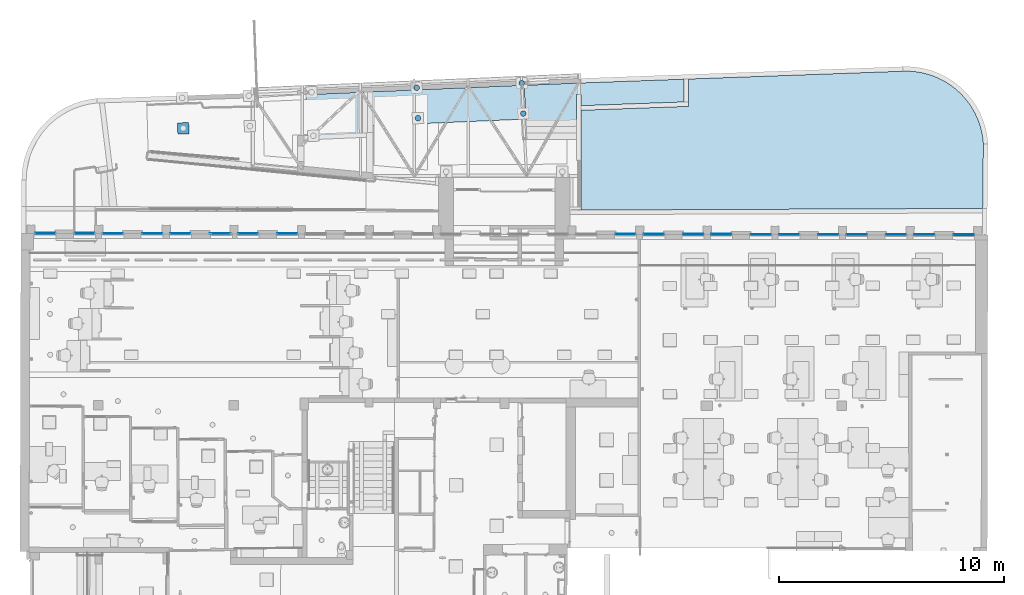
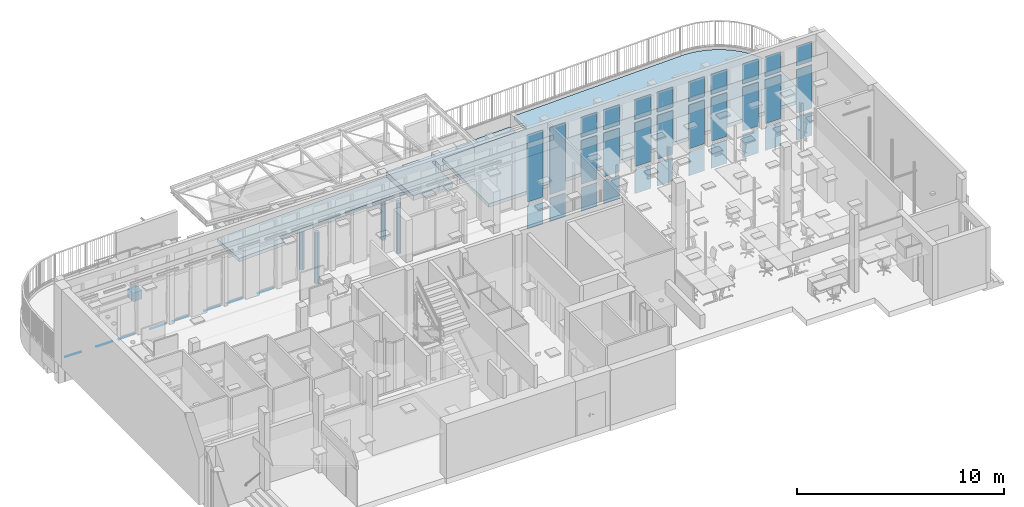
# One storey, part 24 of 128: 39 plates, 8 slabs, 30 elements without a shape of their own.
"""IFC2X3 building model written with IfcOpenShell, lengths in metres."""

from ifc_helpers import new_model, entity, si_unit, converted_unit, derived_unit, direction, frame, frame_2d, origin, origin_2d_with_axis, place, context, subcontext, project, spatial, polyline, circle_curve, parameter, trimmed, segment, composite_curve, rectangle, circle, outline, extrude, source, transform, mapped, material, layer, layer_set, layer_usage, type_object, type_shapes, element, aggregate, save


model = new_model("IFC2X3")

# Units and contexts
model_context = context("Model", 3, precision=1e-05, world=origin(), true_north=direction((6.123031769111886e-17, 1.0)))
body_context = subcontext(model_context, "Body", "Model", "MODEL_VIEW")
ifc_project = project(units=[si_unit("LENGTHUNIT", "METRE"), si_unit("AREAUNIT", "SQUARE_METRE"), converted_unit("PLANEANGLEUNIT", "DEGREE", entity("IfcPlaneAngleMeasure", 0.017453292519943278), si_unit("PLANEANGLEUNIT", "RADIAN"), dimensions=[0, 0, 0, 0, 0, 0, 0]), derived_unit("THERMALTRANSMITTANCEUNIT", [(si_unit("MASSUNIT", "GRAM", prefix="KILO"), 1), (si_unit("THERMODYNAMICTEMPERATUREUNIT", "KELVIN"), -1), (si_unit("TIMEUNIT", "SECOND"), -3)])], contexts=[model_context])

# Site, building, storey
site_placement = place(None, origin())
site = spatial("IfcSite", under=ifc_project, at=site_placement, Name="Default", CompositionType="ELEMENT")
building_placement = place(site_placement, origin())
building = spatial("IfcBuilding", under=site, at=building_placement, CompositionType="ELEMENT")
storey_placement = place(building_placement, origin())
storey = spatial("IfcBuildingStorey", under=building, at=storey_placement, Name="00_RDC CAF", CompositionType="ELEMENT", Elevation=2.4982504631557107e-13)

# Curtain wall, plate
curtain_wall_type_1 = type_object("IfcCurtainWallType", Name="Mur-rideau:FRi.Ext.30mm RDC", PredefinedType="NOTDEFINED")
curtain_wall_1_placement = place(storey_placement, origin())
curtain_wall_1 = element("IfcCurtainWall", 1, at=curtain_wall_1_placement, inside=storey, type_object=curtain_wall_type_1, Name="Mur-rideau:FRi.Ext.30mm RDC", ObjectType="Mur-rideau:FRi.Ext.30mm RDC")
ifc_material_1 = material(Name="ARC - M.Ex - Verre")
plate_type_1 = type_object("IfcPlateType", Name="Panneau système:F.Ri.P_Ext_Vitre_30mm", PredefinedType="CURTAIN_PANEL", material=ifc_material_1)
shared_shape_1 = source(origin(), body_context, "Body", "SweptSolid", [
    extrude(rectangle(XDim=0.03, YDim=0.879999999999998, at=frame_2d((0.0, 1.942890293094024e-16), x_axis=(1.0, 0.0))), frame((0.0, 0.0, 0.0), z_axis=(0.0, 0.0, 1.0), x_axis=(0.0, 1.0, 0.0)), (0.0, 0.0, 1.0), 2.578999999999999),
])
type_shapes(plate_type_1, [shared_shape_1])
plate_1_placement = place(curtain_wall_1_placement, frame((36.122358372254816, 144.13736437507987, 0.08999999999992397)))
plate_1 = element("IfcPlate", 2, at=plate_1_placement, type_object=plate_type_1, material=ifc_material_1, Name="Panneau système:F.Ri.P_Ext_Vitre_30mm", ObjectType="Panneau système:F.Ri.P_Ext_Vitre_30mm", context=body_context, shape_type="MappedRepresentation", body=[
    mapped(shared_shape_1, transform((0.0, 0.0, 0.0), scale=1.0)),
])

curtain_wall_2_placement = place(storey_placement, origin())
curtain_wall_2 = element("IfcCurtainWall", 3, at=curtain_wall_2_placement, inside=storey, type_object=curtain_wall_type_1, Name="Mur-rideau:FRi.Ext.30mm RDC", ObjectType="Mur-rideau:FRi.Ext.30mm RDC")
plate_2_placement = place(curtain_wall_2_placement, frame((37.37597977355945, 144.13539281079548, 0.08999999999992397)))
plate_2 = element("IfcPlate", 4, at=plate_2_placement, type_object=plate_type_1, material=ifc_material_1, Name="Panneau système:F.Ri.P_Ext_Vitre_30mm", ObjectType="Panneau système:F.Ri.P_Ext_Vitre_30mm", context=body_context, shape_type="MappedRepresentation", body=[
    mapped(shared_shape_1, transform((0.0, 0.0, 0.0), scale=1.0)),
])

curtain_wall_3_placement = place(storey_placement, origin())
curtain_wall_3 = element("IfcCurtainWall", 5, at=curtain_wall_3_placement, inside=storey, type_object=curtain_wall_type_1, Name="Mur-rideau:FRi.Ext.30mm RDC", ObjectType="Mur-rideau:FRi.Ext.30mm RDC")
plate_3_placement = place(curtain_wall_3_placement, frame((39.12235173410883, 144.13264630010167, 0.08999999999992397)))
plate_3 = element("IfcPlate", 6, at=plate_3_placement, type_object=plate_type_1, material=ifc_material_1, Name="Panneau système:F.Ri.P_Ext_Vitre_30mm", ObjectType="Panneau système:F.Ri.P_Ext_Vitre_30mm", context=body_context, shape_type="MappedRepresentation", body=[
    mapped(shared_shape_1, transform((0.0, 0.0, 0.0), scale=1.0)),
])

curtain_wall_4_placement = place(storey_placement, origin())
curtain_wall_4 = element("IfcCurtainWall", 7, at=curtain_wall_4_placement, inside=storey, type_object=curtain_wall_type_1, Name="Mur-rideau:FRi.Ext.30mm RDC", ObjectType="Mur-rideau:FRi.Ext.30mm RDC")
plate_4_placement = place(curtain_wall_4_placement, frame((40.37597313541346, 144.1306747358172, 0.08999999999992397)))
plate_4 = element("IfcPlate", 8, at=plate_4_placement, type_object=plate_type_1, material=ifc_material_1, Name="Panneau système:F.Ri.P_Ext_Vitre_30mm", ObjectType="Panneau système:F.Ri.P_Ext_Vitre_30mm", context=body_context, shape_type="MappedRepresentation", body=[
    mapped(shared_shape_1, transform((0.0, 0.0, 0.0), scale=1.0)),
])

curtain_wall_5_placement = place(storey_placement, origin())
curtain_wall_5 = element("IfcCurtainWall", 9, at=curtain_wall_5_placement, inside=storey, type_object=curtain_wall_type_1, Name="Mur-rideau:FRi.Ext.30mm RDC", ObjectType="Mur-rideau:FRi.Ext.30mm RDC")
plate_5_placement = place(curtain_wall_5_placement, frame((42.12234509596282, 144.12792822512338, 0.08999999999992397)))
plate_5 = element("IfcPlate", 10, at=plate_5_placement, type_object=plate_type_1, material=ifc_material_1, Name="Panneau système:F.Ri.P_Ext_Vitre_30mm", ObjectType="Panneau système:F.Ri.P_Ext_Vitre_30mm", context=body_context, shape_type="MappedRepresentation", body=[
    mapped(shared_shape_1, transform((0.0, 0.0, 0.0), scale=1.0)),
])

curtain_wall_6_placement = place(storey_placement, origin())
curtain_wall_6 = element("IfcCurtainWall", 11, at=curtain_wall_6_placement, inside=storey, type_object=curtain_wall_type_1, Name="Mur-rideau:FRi.Ext.30mm RDC", ObjectType="Mur-rideau:FRi.Ext.30mm RDC")
plate_6_placement = place(curtain_wall_6_placement, frame((43.37596649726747, 144.125956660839, 0.08999999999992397)))
plate_6 = element("IfcPlate", 12, at=plate_6_placement, type_object=plate_type_1, material=ifc_material_1, Name="Panneau système:F.Ri.P_Ext_Vitre_30mm", ObjectType="Panneau système:F.Ri.P_Ext_Vitre_30mm", context=body_context, shape_type="MappedRepresentation", body=[
    mapped(shared_shape_1, transform((0.0, 0.0, 0.0), scale=1.0)),
])

curtain_wall_7_placement = place(storey_placement, origin())
curtain_wall_7 = element("IfcCurtainWall", 13, at=curtain_wall_7_placement, inside=storey, type_object=curtain_wall_type_1, Name="Mur-rideau:FRi.Ext.30mm RDC", ObjectType="Mur-rideau:FRi.Ext.30mm RDC")
plate_7_placement = place(curtain_wall_7_placement, frame((45.122338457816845, 144.12321015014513, 0.08999999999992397)))
plate_7 = element("IfcPlate", 14, at=plate_7_placement, type_object=plate_type_1, material=ifc_material_1, Name="Panneau système:F.Ri.P_Ext_Vitre_30mm", ObjectType="Panneau système:F.Ri.P_Ext_Vitre_30mm", context=body_context, shape_type="MappedRepresentation", body=[
    mapped(shared_shape_1, transform((0.0, 0.0, 0.0), scale=1.0)),
])

curtain_wall_8_placement = place(storey_placement, origin())
curtain_wall_8 = element("IfcCurtainWall", 15, at=curtain_wall_8_placement, inside=storey, type_object=curtain_wall_type_1, Name="Mur-rideau:FRi.Ext.30mm RDC", ObjectType="Mur-rideau:FRi.Ext.30mm RDC")
plate_8_placement = place(curtain_wall_8_placement, frame((46.3759598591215, 144.12123858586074, 0.08999999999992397)))
plate_8 = element("IfcPlate", 16, at=plate_8_placement, type_object=plate_type_1, material=ifc_material_1, Name="Panneau système:F.Ri.P_Ext_Vitre_30mm", ObjectType="Panneau système:F.Ri.P_Ext_Vitre_30mm", context=body_context, shape_type="MappedRepresentation", body=[
    mapped(shared_shape_1, transform((0.0, 0.0, 0.0), scale=1.0)),
])

curtain_wall_9_placement = place(storey_placement, origin())
curtain_wall_9 = element("IfcCurtainWall", 17, at=curtain_wall_9_placement, inside=storey, type_object=curtain_wall_type_1, Name="Mur-rideau:FRi.Ext.30mm RDC", ObjectType="Mur-rideau:FRi.Ext.30mm RDC")
plate_9_placement = place(curtain_wall_9_placement, frame((48.12233181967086, 144.11849207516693, 0.08999999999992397)))
plate_9 = element("IfcPlate", 18, at=plate_9_placement, type_object=plate_type_1, material=ifc_material_1, Name="Panneau système:F.Ri.P_Ext_Vitre_30mm", ObjectType="Panneau système:F.Ri.P_Ext_Vitre_30mm", context=body_context, shape_type="MappedRepresentation", body=[
    mapped(shared_shape_1, transform((0.0, 0.0, 0.0), scale=1.0)),
])

# Plate
plate_type_2 = type_object("IfcPlateType", Name="Panneau système:F.Ri.P_Ext_Vitre_30mm", PredefinedType="CURTAIN_PANEL", material=ifc_material_1)
shared_shape_2 = source(origin(), body_context, "Body", "SweptSolid", [
    extrude(rectangle(XDim=0.03, YDim=0.879999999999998, at=frame_2d((0.0, 1.942890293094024e-16), x_axis=(1.0, 0.0))), frame((0.0, 0.0, 0.0), z_axis=(0.0, 0.0, 1.0), x_axis=(0.0, 1.0, 0.0)), (0.0, 0.0, 1.0), 1.1689999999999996),
])
type_shapes(plate_type_2, [shared_shape_2])
plate_10_placement = place(curtain_wall_1_placement, frame((36.122358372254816, 144.13736437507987, 2.8689999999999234)))
plate_10 = element("IfcPlate", 19, at=plate_10_placement, type_object=plate_type_2, material=ifc_material_1, Name="Panneau système:F.Ri.P_Ext_Vitre_30mm", ObjectType="Panneau système:F.Ri.P_Ext_Vitre_30mm", context=body_context, shape_type="MappedRepresentation", body=[
    mapped(shared_shape_2, transform((0.0, 0.0, 0.0), scale=1.0)),
])

aggregate(curtain_wall_1, [plate_1, plate_10])

plate_11_placement = place(curtain_wall_2_placement, frame((37.37597977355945, 144.13539281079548, 2.8689999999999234)))
plate_11 = element("IfcPlate", 20, at=plate_11_placement, type_object=plate_type_2, material=ifc_material_1, Name="Panneau système:F.Ri.P_Ext_Vitre_30mm", ObjectType="Panneau système:F.Ri.P_Ext_Vitre_30mm", context=body_context, shape_type="MappedRepresentation", body=[
    mapped(shared_shape_2, transform((0.0, 0.0, 0.0), scale=1.0)),
])

aggregate(curtain_wall_2, [plate_2, plate_11])

plate_12_placement = place(curtain_wall_3_placement, frame((39.12235173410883, 144.13264630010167, 2.8689999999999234)))
plate_12 = element("IfcPlate", 21, at=plate_12_placement, type_object=plate_type_2, material=ifc_material_1, Name="Panneau système:F.Ri.P_Ext_Vitre_30mm", ObjectType="Panneau système:F.Ri.P_Ext_Vitre_30mm", context=body_context, shape_type="MappedRepresentation", body=[
    mapped(shared_shape_2, transform((0.0, 0.0, 0.0), scale=1.0)),
])

aggregate(curtain_wall_3, [plate_3, plate_12])

plate_13_placement = place(curtain_wall_4_placement, frame((40.37597313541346, 144.1306747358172, 2.8689999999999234)))
plate_13 = element("IfcPlate", 22, at=plate_13_placement, type_object=plate_type_2, material=ifc_material_1, Name="Panneau système:F.Ri.P_Ext_Vitre_30mm", ObjectType="Panneau système:F.Ri.P_Ext_Vitre_30mm", context=body_context, shape_type="MappedRepresentation", body=[
    mapped(shared_shape_2, transform((0.0, 0.0, 0.0), scale=1.0)),
])

aggregate(curtain_wall_4, [plate_4, plate_13])

plate_14_placement = place(curtain_wall_5_placement, frame((42.12234509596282, 144.12792822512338, 2.8689999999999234)))
plate_14 = element("IfcPlate", 23, at=plate_14_placement, type_object=plate_type_2, material=ifc_material_1, Name="Panneau système:F.Ri.P_Ext_Vitre_30mm", ObjectType="Panneau système:F.Ri.P_Ext_Vitre_30mm", context=body_context, shape_type="MappedRepresentation", body=[
    mapped(shared_shape_2, transform((0.0, 0.0, 0.0), scale=1.0)),
])

aggregate(curtain_wall_5, [plate_5, plate_14])

plate_15_placement = place(curtain_wall_6_placement, frame((43.37596649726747, 144.125956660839, 2.8689999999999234)))
plate_15 = element("IfcPlate", 24, at=plate_15_placement, type_object=plate_type_2, material=ifc_material_1, Name="Panneau système:F.Ri.P_Ext_Vitre_30mm", ObjectType="Panneau système:F.Ri.P_Ext_Vitre_30mm", context=body_context, shape_type="MappedRepresentation", body=[
    mapped(shared_shape_2, transform((0.0, 0.0, 0.0), scale=1.0)),
])

aggregate(curtain_wall_6, [plate_6, plate_15])

plate_16_placement = place(curtain_wall_7_placement, frame((45.122338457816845, 144.12321015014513, 2.8689999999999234)))
plate_16 = element("IfcPlate", 25, at=plate_16_placement, type_object=plate_type_2, material=ifc_material_1, Name="Panneau système:F.Ri.P_Ext_Vitre_30mm", ObjectType="Panneau système:F.Ri.P_Ext_Vitre_30mm", context=body_context, shape_type="MappedRepresentation", body=[
    mapped(shared_shape_2, transform((0.0, 0.0, 0.0), scale=1.0)),
])

aggregate(curtain_wall_7, [plate_7, plate_16])

plate_17_placement = place(curtain_wall_8_placement, frame((46.3759598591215, 144.12123858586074, 2.8689999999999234)))
plate_17 = element("IfcPlate", 26, at=plate_17_placement, type_object=plate_type_2, material=ifc_material_1, Name="Panneau système:F.Ri.P_Ext_Vitre_30mm", ObjectType="Panneau système:F.Ri.P_Ext_Vitre_30mm", context=body_context, shape_type="MappedRepresentation", body=[
    mapped(shared_shape_2, transform((0.0, 0.0, 0.0), scale=1.0)),
])

aggregate(curtain_wall_8, [plate_8, plate_17])

plate_18_placement = place(curtain_wall_9_placement, frame((48.12233181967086, 144.11849207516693, 2.8689999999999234)))
plate_18 = element("IfcPlate", 27, at=plate_18_placement, type_object=plate_type_2, material=ifc_material_1, Name="Panneau système:F.Ri.P_Ext_Vitre_30mm", ObjectType="Panneau système:F.Ri.P_Ext_Vitre_30mm", context=body_context, shape_type="MappedRepresentation", body=[
    mapped(shared_shape_2, transform((0.0, 0.0, 0.0), scale=1.0)),
])

aggregate(curtain_wall_9, [plate_9, plate_18])

# Curtain wall, plate
curtain_wall_10_placement = place(storey_placement, origin())
curtain_wall_10 = element("IfcCurtainWall", 28, at=curtain_wall_10_placement, inside=storey, type_object=curtain_wall_type_1, Name="Mur-rideau:FRi.Ext.30mm RDC", ObjectType="Mur-rideau:FRi.Ext.30mm RDC")
plate_type_3 = type_object("IfcPlateType", Name="Panneau système:F.Ri.P_Ext_Vitre_30mm", PredefinedType="CURTAIN_PANEL", material=ifc_material_1)
shared_shape_3 = source(origin(), body_context, "Body", "SweptSolid", [
    extrude(rectangle(XDim=0.03, YDim=0.8800000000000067, at=frame_2d((0.0, -3.3306690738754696e-16), x_axis=(1.0, 0.0))), frame((0.0, 0.0, 0.0), z_axis=(0.0, 0.0, 1.0), x_axis=(0.0, 1.0, 0.0)), (0.0, 0.0, 1.0), 3.9479999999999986),
])
type_shapes(plate_type_3, [shared_shape_3])
plate_19_placement = place(curtain_wall_10_placement, frame((33.12236501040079, 144.14208245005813, 0.08999999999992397)))
plate_19 = element("IfcPlate", 29, at=plate_19_placement, type_object=plate_type_3, material=ifc_material_1, Name="Panneau système:F.Ri.P_Ext_Vitre_30mm", ObjectType="Panneau système:F.Ri.P_Ext_Vitre_30mm", context=body_context, shape_type="MappedRepresentation", body=[
    mapped(shared_shape_3, transform((0.0, 0.0, 0.0), scale=1.0)),
])
aggregate(curtain_wall_10, [plate_19])

curtain_wall_11_placement = place(storey_placement, origin())
curtain_wall_11 = element("IfcCurtainWall", 30, at=curtain_wall_11_placement, inside=storey, type_object=curtain_wall_type_1, Name="Mur-rideau:FRi.Ext.30mm RDC", ObjectType="Mur-rideau:FRi.Ext.30mm RDC")
plate_20_placement = place(curtain_wall_11_placement, frame((34.375986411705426, 144.1401108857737, 0.08999999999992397)))
plate_20 = element("IfcPlate", 31, at=plate_20_placement, type_object=plate_type_3, material=ifc_material_1, Name="Panneau système:F.Ri.P_Ext_Vitre_30mm", ObjectType="Panneau système:F.Ri.P_Ext_Vitre_30mm", context=body_context, shape_type="MappedRepresentation", body=[
    mapped(shared_shape_3, transform((0.0, 0.0, 0.0), scale=1.0)),
])
aggregate(curtain_wall_11, [plate_20])

curtain_wall_type_2 = type_object("IfcCurtainWallType", Name="Mur-rideau:FRi.Ext.30mm Etages", PredefinedType="NOTDEFINED")
curtain_wall_12_placement = place(storey_placement, origin())
curtain_wall_12 = element("IfcCurtainWall", 32, at=curtain_wall_12_placement, inside=storey, type_object=curtain_wall_type_2, Name="Mur-rideau:FRi.Ext.30mm Etages", ObjectType="Mur-rideau:FRi.Ext.30mm Etages")
ifc_material_2 = material(Name="ARC - M.Ex - Bleu Foncé")
plate_type_4 = type_object("IfcPlateType", Name="Panneau système:F.Ri.P_Ext_Plein_30mm_Bleu foncé", PredefinedType="CURTAIN_PANEL", material=ifc_material_2)
shared_shape_4 = source(origin(), body_context, "Body", "SweptSolid", [
    extrude(rectangle(XDim=0.03, YDim=0.8800000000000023, at=frame_2d((0.0, 7.494005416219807e-16), x_axis=(1.0, 0.0))), frame((0.0, 0.0, 0.0), z_axis=(0.0, 0.0, 1.0), x_axis=(0.0, 1.0, 0.0)), (0.0, 0.0, 1.0), 1.3879999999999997),
])
type_shapes(plate_type_4, [shared_shape_4])
plate_21_placement = place(curtain_wall_12_placement, frame((34.37598641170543, 144.14011088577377, -1.500000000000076)))
plate_21 = element("IfcPlate", 33, at=plate_21_placement, type_object=plate_type_4, material=ifc_material_2, Name="Panneau système:F.Ri.P_Ext_Plein_30mm_Bleu foncé", ObjectType="Panneau système:F.Ri.P_Ext_Plein_30mm_Bleu foncé", context=body_context, shape_type="MappedRepresentation", body=[
    mapped(shared_shape_4, transform((0.0, 0.0, 0.0), scale=1.0)),
])
aggregate(curtain_wall_12, [plate_21])

curtain_wall_13_placement = place(storey_placement, origin())
curtain_wall_13 = element("IfcCurtainWall", 34, at=curtain_wall_13_placement, inside=storey, type_object=curtain_wall_type_2, Name="Mur-rideau:FRi.Ext.30mm Etages", ObjectType="Mur-rideau:FRi.Ext.30mm Etages")
plate_22_placement = place(curtain_wall_13_placement, frame((37.37597977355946, 144.13539281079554, -1.500000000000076)))
plate_22 = element("IfcPlate", 35, at=plate_22_placement, type_object=plate_type_4, material=ifc_material_2, Name="Panneau système:F.Ri.P_Ext_Plein_30mm_Bleu foncé", ObjectType="Panneau système:F.Ri.P_Ext_Plein_30mm_Bleu foncé", context=body_context, shape_type="MappedRepresentation", body=[
    mapped(shared_shape_4, transform((0.0, 0.0, 0.0), scale=1.0)),
])
aggregate(curtain_wall_13, [plate_22])

curtain_wall_14_placement = place(storey_placement, origin())
curtain_wall_14 = element("IfcCurtainWall", 36, at=curtain_wall_14_placement, inside=storey, type_object=curtain_wall_type_2, Name="Mur-rideau:FRi.Ext.30mm Etages", ObjectType="Mur-rideau:FRi.Ext.30mm Etages")
plate_23_placement = place(curtain_wall_14_placement, frame((40.37597313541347, 144.13067473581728, -1.500000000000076)))
plate_23 = element("IfcPlate", 37, at=plate_23_placement, type_object=plate_type_4, material=ifc_material_2, Name="Panneau système:F.Ri.P_Ext_Plein_30mm_Bleu foncé", ObjectType="Panneau système:F.Ri.P_Ext_Plein_30mm_Bleu foncé", context=body_context, shape_type="MappedRepresentation", body=[
    mapped(shared_shape_4, transform((0.0, 0.0, 0.0), scale=1.0)),
])
aggregate(curtain_wall_14, [plate_23])

curtain_wall_15_placement = place(storey_placement, origin())
curtain_wall_15 = element("IfcCurtainWall", 38, at=curtain_wall_15_placement, inside=storey, type_object=curtain_wall_type_2, Name="Mur-rideau:FRi.Ext.30mm Etages", ObjectType="Mur-rideau:FRi.Ext.30mm Etages")
plate_24_placement = place(curtain_wall_15_placement, frame((43.37596649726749, 144.12595666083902, -1.500000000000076)))
plate_24 = element("IfcPlate", 39, at=plate_24_placement, type_object=plate_type_4, material=ifc_material_2, Name="Panneau système:F.Ri.P_Ext_Plein_30mm_Bleu foncé", ObjectType="Panneau système:F.Ri.P_Ext_Plein_30mm_Bleu foncé", context=body_context, shape_type="MappedRepresentation", body=[
    mapped(shared_shape_4, transform((0.0, 0.0, 0.0), scale=1.0)),
])
aggregate(curtain_wall_15, [plate_24])

curtain_wall_16_placement = place(storey_placement, origin())
curtain_wall_16 = element("IfcCurtainWall", 40, at=curtain_wall_16_placement, inside=storey, type_object=curtain_wall_type_2, Name="Mur-rideau:FRi.Ext.30mm Etages", ObjectType="Mur-rideau:FRi.Ext.30mm Etages")
plate_25_placement = place(curtain_wall_16_placement, frame((46.37595985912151, 144.12123858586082, -1.500000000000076)))
plate_25 = element("IfcPlate", 41, at=plate_25_placement, type_object=plate_type_4, material=ifc_material_2, Name="Panneau système:F.Ri.P_Ext_Plein_30mm_Bleu foncé", ObjectType="Panneau système:F.Ri.P_Ext_Plein_30mm_Bleu foncé", context=body_context, shape_type="MappedRepresentation", body=[
    mapped(shared_shape_4, transform((0.0, 0.0, 0.0), scale=1.0)),
])
aggregate(curtain_wall_16, [plate_25])

curtain_wall_17_placement = place(storey_placement, origin())
curtain_wall_17 = element("IfcCurtainWall", 42, at=curtain_wall_17_placement, inside=storey, type_object=curtain_wall_type_2, Name="Mur-rideau:FRi.Ext.30mm Etages", ObjectType="Mur-rideau:FRi.Ext.30mm Etages")
plate_type_5 = type_object("IfcPlateType", Name="Panneau système:F.Ri.P_Ext_Plein_30mm_Bleu foncé", PredefinedType="CURTAIN_PANEL", material=ifc_material_2)
shared_shape_5 = source(origin(), body_context, "Body", "SweptSolid", [
    extrude(rectangle(XDim=0.03, YDim=0.8800000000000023, at=frame_2d((0.0, 7.494005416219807e-16), x_axis=(1.0, 0.0))), frame((0.0, 0.0, 0.0), z_axis=(0.0, 0.0, 1.0), x_axis=(0.0, 1.0, 0.0)), (0.0, 0.0, 1.0), 0.01199999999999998),
])
type_shapes(plate_type_5, [shared_shape_5])
plate_26_placement = place(curtain_wall_17_placement, frame((10.375999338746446, 144.17785554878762, -0.062000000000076)))
plate_26 = element("IfcPlate", 43, at=plate_26_placement, type_object=plate_type_5, material=ifc_material_2, Name="Panneau système:F.Ri.P_Ext_Plein_30mm_Bleu foncé", ObjectType="Panneau système:F.Ri.P_Ext_Plein_30mm_Bleu foncé", context=body_context, shape_type="MappedRepresentation", body=[
    mapped(shared_shape_5, transform((0.0, 0.0, 0.0), scale=1.0)),
])
aggregate(curtain_wall_17, [plate_26])

curtain_wall_18_placement = place(storey_placement, origin())
curtain_wall_18 = element("IfcCurtainWall", 44, at=curtain_wall_18_placement, inside=storey, type_object=curtain_wall_type_2, Name="Mur-rideau:FRi.Ext.30mm Etages", ObjectType="Mur-rideau:FRi.Ext.30mm Etages")
plate_27_placement = place(curtain_wall_18_placement, frame((7.3760461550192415, 144.18257356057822, -0.062000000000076)))
plate_27 = element("IfcPlate", 45, at=plate_27_placement, type_object=plate_type_5, material=ifc_material_2, Name="Panneau système:F.Ri.P_Ext_Plein_30mm_Bleu foncé", ObjectType="Panneau système:F.Ri.P_Ext_Plein_30mm_Bleu foncé", context=body_context, shape_type="MappedRepresentation", body=[
    mapped(shared_shape_5, transform((0.0, 0.0, 0.0), scale=1.0)),
])
aggregate(curtain_wall_18, [plate_27])

curtain_wall_19_placement = place(storey_placement, origin())
curtain_wall_19 = element("IfcCurtainWall", 46, at=curtain_wall_19_placement, inside=storey, type_object=curtain_wall_type_2, Name="Mur-rideau:FRi.Ext.30mm Etages", ObjectType="Mur-rideau:FRi.Ext.30mm Etages")
plate_28_placement = place(curtain_wall_19_placement, frame((13.376032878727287, 144.17313741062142, -0.062000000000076)))
plate_28 = element("IfcPlate", 47, at=plate_28_placement, type_object=plate_type_5, material=ifc_material_2, Name="Panneau système:F.Ri.P_Ext_Plein_30mm_Bleu foncé", ObjectType="Panneau système:F.Ri.P_Ext_Plein_30mm_Bleu foncé", context=body_context, shape_type="MappedRepresentation", body=[
    mapped(shared_shape_5, transform((0.0, 0.0, 0.0), scale=1.0)),
])
aggregate(curtain_wall_19, [plate_28])

curtain_wall_20_placement = place(storey_placement, origin())
curtain_wall_20 = element("IfcCurtainWall", 48, at=curtain_wall_20_placement, inside=storey, type_object=curtain_wall_type_2, Name="Mur-rideau:FRi.Ext.30mm Etages", ObjectType="Mur-rideau:FRi.Ext.30mm Etages")
plate_29_placement = place(curtain_wall_20_placement, frame((16.376026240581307, 144.16841933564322, -0.062000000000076)))
plate_29 = element("IfcPlate", 49, at=plate_29_placement, type_object=plate_type_5, material=ifc_material_2, Name="Panneau système:F.Ri.P_Ext_Plein_30mm_Bleu foncé", ObjectType="Panneau système:F.Ri.P_Ext_Plein_30mm_Bleu foncé", context=body_context, shape_type="MappedRepresentation", body=[
    mapped(shared_shape_5, transform((0.0, 0.0, 0.0), scale=1.0)),
])
aggregate(curtain_wall_20, [plate_29])

curtain_wall_21_placement = place(storey_placement, origin())
curtain_wall_21 = element("IfcCurtainWall", 50, at=curtain_wall_21_placement, inside=storey, type_object=curtain_wall_type_2, Name="Mur-rideau:FRi.Ext.30mm Etages", ObjectType="Mur-rideau:FRi.Ext.30mm Etages")
plate_type_6 = type_object("IfcPlateType", Name="Panneau système:F.Ri.P_Ext_Plein_30mm_Bleu foncé", PredefinedType="CURTAIN_PANEL", material=ifc_material_2)
shared_shape_6 = source(origin(), body_context, "Body", "SweptSolid", [
    extrude(rectangle(XDim=0.03, YDim=0.8800000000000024, at=frame_2d((0.0, 6.661338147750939e-16), x_axis=(1.0, 0.0))), frame((0.0, 0.0, 0.0), z_axis=(0.0, 0.0, 1.0), x_axis=(0.0, 1.0, 0.0)), (0.0, 0.0, 1.0), 1.3879999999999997),
])
type_shapes(plate_type_6, [shared_shape_6])
plate_30_placement = place(curtain_wall_21_placement, frame((33.12233913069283, 144.14208249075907, -1.500000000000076), z_axis=(0.0, 0.0, 1.0), x_axis=(-1.0, 0.0, 0.0)))
plate_30 = element("IfcPlate", 51, at=plate_30_placement, type_object=plate_type_6, material=ifc_material_2, Name="Panneau système:F.Ri.P_Ext_Plein_30mm_Bleu foncé", ObjectType="Panneau système:F.Ri.P_Ext_Plein_30mm_Bleu foncé", context=body_context, shape_type="MappedRepresentation", body=[
    mapped(shared_shape_6, transform((0.0, 0.0, 0.0), scale=1.0)),
])
aggregate(curtain_wall_21, [plate_30])

curtain_wall_22_placement = place(storey_placement, origin())
curtain_wall_22 = element("IfcCurtainWall", 52, at=curtain_wall_22_placement, inside=storey, type_object=curtain_wall_type_2, Name="Mur-rideau:FRi.Ext.30mm Etages", ObjectType="Mur-rideau:FRi.Ext.30mm Etages")
plate_31_placement = place(curtain_wall_22_placement, frame((36.122332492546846, 144.13736441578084, -1.500000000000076), z_axis=(0.0, 0.0, 1.0), x_axis=(-1.0, 0.0, 0.0)))
plate_31 = element("IfcPlate", 53, at=plate_31_placement, type_object=plate_type_6, material=ifc_material_2, Name="Panneau système:F.Ri.P_Ext_Plein_30mm_Bleu foncé", ObjectType="Panneau système:F.Ri.P_Ext_Plein_30mm_Bleu foncé", context=body_context, shape_type="MappedRepresentation", body=[
    mapped(shared_shape_6, transform((0.0, 0.0, 0.0), scale=1.0)),
])
aggregate(curtain_wall_22, [plate_31])

curtain_wall_23_placement = place(storey_placement, origin())
curtain_wall_23 = element("IfcCurtainWall", 54, at=curtain_wall_23_placement, inside=storey, type_object=curtain_wall_type_2, Name="Mur-rideau:FRi.Ext.30mm Etages", ObjectType="Mur-rideau:FRi.Ext.30mm Etages")
plate_32_placement = place(curtain_wall_23_placement, frame((39.12232585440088, 144.1326463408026, -1.500000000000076), z_axis=(0.0, 0.0, 1.0), x_axis=(-1.0, 0.0, 0.0)))
plate_32 = element("IfcPlate", 55, at=plate_32_placement, type_object=plate_type_6, material=ifc_material_2, Name="Panneau système:F.Ri.P_Ext_Plein_30mm_Bleu foncé", ObjectType="Panneau système:F.Ri.P_Ext_Plein_30mm_Bleu foncé", context=body_context, shape_type="MappedRepresentation", body=[
    mapped(shared_shape_6, transform((0.0, 0.0, 0.0), scale=1.0)),
])
aggregate(curtain_wall_23, [plate_32])

curtain_wall_24_placement = place(storey_placement, origin())
curtain_wall_24 = element("IfcCurtainWall", 56, at=curtain_wall_24_placement, inside=storey, type_object=curtain_wall_type_2, Name="Mur-rideau:FRi.Ext.30mm Etages", ObjectType="Mur-rideau:FRi.Ext.30mm Etages")
plate_33_placement = place(curtain_wall_24_placement, frame((42.12231921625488, 144.12792826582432, -1.500000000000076), z_axis=(0.0, 0.0, 1.0), x_axis=(-1.0, 0.0, 0.0)))
plate_33 = element("IfcPlate", 57, at=plate_33_placement, type_object=plate_type_6, material=ifc_material_2, Name="Panneau système:F.Ri.P_Ext_Plein_30mm_Bleu foncé", ObjectType="Panneau système:F.Ri.P_Ext_Plein_30mm_Bleu foncé", context=body_context, shape_type="MappedRepresentation", body=[
    mapped(shared_shape_6, transform((0.0, 0.0, 0.0), scale=1.0)),
])
aggregate(curtain_wall_24, [plate_33])

curtain_wall_25_placement = place(storey_placement, origin())
curtain_wall_25 = element("IfcCurtainWall", 58, at=curtain_wall_25_placement, inside=storey, type_object=curtain_wall_type_2, Name="Mur-rideau:FRi.Ext.30mm Etages", ObjectType="Mur-rideau:FRi.Ext.30mm Etages")
plate_34_placement = place(curtain_wall_25_placement, frame((45.122312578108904, 144.1232101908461, -1.500000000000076), z_axis=(0.0, 0.0, 1.0), x_axis=(-1.0, 0.0, 0.0)))
plate_34 = element("IfcPlate", 59, at=plate_34_placement, type_object=plate_type_6, material=ifc_material_2, Name="Panneau système:F.Ri.P_Ext_Plein_30mm_Bleu foncé", ObjectType="Panneau système:F.Ri.P_Ext_Plein_30mm_Bleu foncé", context=body_context, shape_type="MappedRepresentation", body=[
    mapped(shared_shape_6, transform((0.0, 0.0, 0.0), scale=1.0)),
])
aggregate(curtain_wall_25, [plate_34])

curtain_wall_26_placement = place(storey_placement, origin())
curtain_wall_26 = element("IfcCurtainWall", 60, at=curtain_wall_26_placement, inside=storey, type_object=curtain_wall_type_2, Name="Mur-rideau:FRi.Ext.30mm Etages", ObjectType="Mur-rideau:FRi.Ext.30mm Etages")
plate_35_placement = place(curtain_wall_26_placement, frame((48.12230593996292, 144.11849211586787, -1.500000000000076), z_axis=(0.0, 0.0, 1.0), x_axis=(-1.0, 0.0, 0.0)))
plate_35 = element("IfcPlate", 61, at=plate_35_placement, type_object=plate_type_6, material=ifc_material_2, Name="Panneau système:F.Ri.P_Ext_Plein_30mm_Bleu foncé", ObjectType="Panneau système:F.Ri.P_Ext_Plein_30mm_Bleu foncé", context=body_context, shape_type="MappedRepresentation", body=[
    mapped(shared_shape_6, transform((0.0, 0.0, 0.0), scale=1.0)),
])
aggregate(curtain_wall_26, [plate_35])

curtain_wall_27_placement = place(storey_placement, origin())
curtain_wall_27 = element("IfcCurtainWall", 62, at=curtain_wall_27_placement, inside=storey, type_object=curtain_wall_type_2, Name="Mur-rideau:FRi.Ext.30mm Etages", ObjectType="Mur-rideau:FRi.Ext.30mm Etages")
plate_type_7 = type_object("IfcPlateType", Name="Panneau système:F.Ri.P_Ext_Plein_30mm_Bleu foncé", PredefinedType="CURTAIN_PANEL", material=ifc_material_2)
shared_shape_7 = source(origin(), body_context, "Body", "SweptSolid", [
    extrude(rectangle(XDim=0.03, YDim=0.8800000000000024, at=frame_2d((0.0, 6.661338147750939e-16), x_axis=(1.0, 0.0))), frame((0.0, 0.0, 0.0), z_axis=(0.0, 0.0, 1.0), x_axis=(0.0, 1.0, 0.0)), (0.0, 0.0, 1.0), 0.01199999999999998),
])
type_shapes(plate_type_7, [shared_shape_7])
plate_36_placement = place(curtain_wall_27_placement, frame((12.12234541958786, 144.17510907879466, -0.062000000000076), z_axis=(0.0, 0.0, 1.0), x_axis=(-1.0, 0.0, 0.0)))
plate_36 = element("IfcPlate", 63, at=plate_36_placement, type_object=plate_type_7, material=ifc_material_2, Name="Panneau système:F.Ri.P_Ext_Plein_30mm_Bleu foncé", ObjectType="Panneau système:F.Ri.P_Ext_Plein_30mm_Bleu foncé", context=body_context, shape_type="MappedRepresentation", body=[
    mapped(shared_shape_7, transform((0.0, 0.0, 0.0), scale=1.0)),
])
aggregate(curtain_wall_27, [plate_36])

curtain_wall_28_placement = place(storey_placement, origin())
curtain_wall_28 = element("IfcCurtainWall", 64, at=curtain_wall_28_placement, inside=storey, type_object=curtain_wall_type_2, Name="Mur-rideau:FRi.Ext.30mm Etages", ObjectType="Mur-rideau:FRi.Ext.30mm Etages")
plate_37_placement = place(curtain_wall_28_placement, frame((9.122392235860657, 144.17982709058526, -0.062000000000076), z_axis=(0.0, 0.0, 1.0), x_axis=(-1.0, 0.0, 0.0)))
plate_37 = element("IfcPlate", 65, at=plate_37_placement, type_object=plate_type_7, material=ifc_material_2, Name="Panneau système:F.Ri.P_Ext_Plein_30mm_Bleu foncé", ObjectType="Panneau système:F.Ri.P_Ext_Plein_30mm_Bleu foncé", context=body_context, shape_type="MappedRepresentation", body=[
    mapped(shared_shape_7, transform((0.0, 0.0, 0.0), scale=1.0)),
])
aggregate(curtain_wall_28, [plate_37])

curtain_wall_29_placement = place(storey_placement, origin())
curtain_wall_29 = element("IfcCurtainWall", 66, at=curtain_wall_29_placement, inside=storey, type_object=curtain_wall_type_2, Name="Mur-rideau:FRi.Ext.30mm Etages", ObjectType="Mur-rideau:FRi.Ext.30mm Etages")
plate_38_placement = place(curtain_wall_29_placement, frame((15.122378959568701, 144.17039094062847, -0.062000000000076), z_axis=(0.0, 0.0, 1.0), x_axis=(-1.0, 0.0, 0.0)))
plate_38 = element("IfcPlate", 67, at=plate_38_placement, type_object=plate_type_7, material=ifc_material_2, Name="Panneau système:F.Ri.P_Ext_Plein_30mm_Bleu foncé", ObjectType="Panneau système:F.Ri.P_Ext_Plein_30mm_Bleu foncé", context=body_context, shape_type="MappedRepresentation", body=[
    mapped(shared_shape_7, transform((0.0, 0.0, 0.0), scale=1.0)),
])
aggregate(curtain_wall_29, [plate_38])

curtain_wall_30_placement = place(storey_placement, origin())
curtain_wall_30 = element("IfcCurtainWall", 68, at=curtain_wall_30_placement, inside=storey, type_object=curtain_wall_type_2, Name="Mur-rideau:FRi.Ext.30mm Etages", ObjectType="Mur-rideau:FRi.Ext.30mm Etages")
plate_39_placement = place(curtain_wall_30_placement, frame((18.12237232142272, 144.16567286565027, -0.062000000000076), z_axis=(0.0, 0.0, 1.0), x_axis=(-1.0, 0.0, 0.0)))
plate_39 = element("IfcPlate", 69, at=plate_39_placement, type_object=plate_type_7, material=ifc_material_2, Name="Panneau système:F.Ri.P_Ext_Plein_30mm_Bleu foncé", ObjectType="Panneau système:F.Ri.P_Ext_Plein_30mm_Bleu foncé", context=body_context, shape_type="MappedRepresentation", body=[
    mapped(shared_shape_7, transform((0.0, 0.0, 0.0), scale=1.0)),
])
aggregate(curtain_wall_30, [plate_39])

# Slabs
ifc_material_3 = material(Name="STR - Beton")
ifc_layer_1 = layer(ifc_material_3, 0.2)
ifc_layer_set_1 = layer_set([ifc_layer_1], Name="Sol:Vo_Dalle_Beton_200mm")
ifc_layer_usage_1 = layer_usage(ifc_layer_set_1, "AXIS3", "POSITIVE", 0.0)
slab_type_1 = type_object("IfcSlabType", Name="Sol:Vo_Dalle_Beton_200mm", PredefinedType="FLOOR", material=ifc_layer_set_1)
slab_1_placement = place(storey_placement, origin())
element("IfcSlab", 70, at=slab_1_placement, inside=storey, type_object=slab_type_1, material=ifc_layer_usage_1, Name="Sol:Vo_Dalle_Beton_200mm", ObjectType="Sol:Vo_Dalle_Beton_200mm", PredefinedType="FLOOR", context=body_context, shape_type="SweptSolid", body=[
    extrude(outline(polyline([(-1.1708750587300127, -5.730935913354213), (0.3344749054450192, -5.7309359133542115), (0.3354546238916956, 1.548392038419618), (0.8357350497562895, 1.568311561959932), (0.8360855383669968, 4.172449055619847), (-1.170875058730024, 4.172719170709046), (-1.1708750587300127, -5.730935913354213)])), frame((23.167411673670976, 149.34160133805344, -0.9960293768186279), z_axis=(0.0, 0.0, -1.0), x_axis=(0.043102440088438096, -0.9990706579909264, 0.0)), (0.0, 0.0, 1.0), 0.2),
])
ifc_layer_2 = layer(ifc_material_3, 0.14999999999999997)
ifc_material_4 = material(Name="Terre")
ifc_layer_3 = layer(ifc_material_4, 0.14999999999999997)
ifc_layer_set_2 = layer_set([ifc_layer_2, ifc_layer_3], Name="Sol:Vo_Dalle_Beton_150mm")
ifc_layer_usage_2 = layer_usage(ifc_layer_set_2, "AXIS3", "POSITIVE", 0.0)
slab_type_2 = type_object("IfcSlabType", Name="Sol:Vo_Dalle_Beton_150mm", PredefinedType="FLOOR", material=ifc_layer_set_2)
slab_2_placement = place(storey_placement, origin())
element("IfcSlab", 71, at=slab_2_placement, inside=storey, type_object=slab_type_2, material=ifc_layer_usage_2, Name="Sol:Vo_Dalle_Beton_150mm", ObjectType="Sol:Vo_Dalle_Beton_150mm", PredefinedType="FLOOR", context=body_context, shape_type="SweptSolid", body=[
    extrude(outline(polyline([(-1.0379584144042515, -4.172531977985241), (-0.025821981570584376, -4.172531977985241), (0.14094702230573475, 0.4049676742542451), (-0.3627326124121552, 0.4056776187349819), (-0.3627326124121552, 0.6056778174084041), (1.6301682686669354, 0.6028687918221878), (1.646064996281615, 2.798375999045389), (-0.7638883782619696, 2.9246272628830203), (-0.8640462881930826, 0.6028687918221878), (-1.0379584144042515, -4.172531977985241)])), frame((31.549654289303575, 149.9798328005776, -0.6950000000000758), z_axis=(0.0, 0.0, -1.0), x_axis=(0.0, -1.0, 0.0)), (0.0, 0.0, 1.0), 0.2999999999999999),
])
ifc_material_5 = material(Name="SITE - Herbe")
ifc_layer_4 = layer(ifc_material_5, 0.2)
ifc_layer_set_3 = layer_set([ifc_layer_4], Name="Sol:S_Sol_vegetalise_200 mm")
ifc_layer_usage_3 = layer_usage(ifc_layer_set_3, "AXIS3", "POSITIVE", 0.0)
slab_type_3 = type_object("IfcSlabType", Name="Sol:S_Sol_vegetalise_200 mm", PredefinedType="FLOOR", material=ifc_layer_set_3)
slab_3_placement = place(storey_placement, origin())
element("IfcSlab", 72, at=slab_3_placement, inside=storey, type_object=slab_type_3, material=ifc_layer_usage_3, Name="Sol:S_Sol_vegetalise_200 mm", ObjectType="Sol:S_Sol_vegetalise_200 mm", PredefinedType="FLOOR", context=body_context, shape_type="SweptSolid", body=[
    extrude(outline(composite_curve([segment(polyline([(-3.6368848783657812, -2.518194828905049), (5.8755492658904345, -2.5181948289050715)]), True, "CONTINUOUS"), segment(trimmed(circle_curve(frame_2d((5.894772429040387, 0.9150028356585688), x_axis=(-0.00559911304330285, -0.9999843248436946)), 3.4332514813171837), [parameter(0.0)], [parameter(88.96717466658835)], True, "PARAMETER"), True, "CONTINUOUS"), segment(polyline([(9.327065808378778, 0.8338986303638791), (9.193251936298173, 3.694402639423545)]), True, "CONTINUOUS"), segment(polyline([(9.193251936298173, 3.694402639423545), (-8.61653462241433, 3.1215796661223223)]), True, "CONTINUOUS"), segment(polyline([(-8.61653462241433, 3.1215796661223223), (-8.461417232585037, -1.3067631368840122)]), True, "CONTINUOUS"), segment(polyline([(-8.461417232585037, -1.3067631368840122), (-3.6810302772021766, -1.3067281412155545)]), True, "CONTINUOUS"), segment(polyline([(-3.6810302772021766, -1.3067281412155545), (-3.6368848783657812, -2.518194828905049)]), True, "CONTINUOUS")], self_intersect=False)), frame((39.64836016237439, 148.64099337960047, -0.13400000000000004), z_axis=(0.0, 0.0, -1.0), x_axis=(0.9993367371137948, 0.03641546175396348, 0.0)), (0.0, 0.0, 1.0), 0.19999999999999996),
])
ifc_material_6 = material(Name="Béton - Béton coulé sur place")
slab_type_4 = type_object("IfcSlabType", Name="Casque de battage-1 poteau:TP 500x500x500 - Pieux 250", PredefinedType="BASESLAB", material=ifc_material_6)
slab_4_placement = place(storey_placement, origin())
element("IfcSlab", 73, at=slab_4_placement, inside=storey, type_object=slab_type_4, Name="Casque de battage-1 poteau:TP 500x500x500 - Pieux 250", ObjectType="Casque de battage-1 poteau:TP 500x500x500 - Pieux 250", PredefinedType="BASESLAB", context=body_context, shape_type="SweptSolid", body=[
    extrude(rectangle(XDim=0.5000000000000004, YDim=0.5000000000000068, at=origin_2d_with_axis()), frame((13.502569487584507, 148.835685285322, -1.6839951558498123), z_axis=(0.0, 0.0, 1.0), x_axis=(-0.9994329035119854, -0.03367300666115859, 0.0)), (0.0, 0.0, 1.0), 0.4999999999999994),
])
slab_type_5 = type_object("IfcSlabType", Name="Pieu-Conduite en acier:Diamètre de 250 mm", PredefinedType="BASESLAB")
slab_5_placement = place(storey_placement, origin())
element("IfcSlab", 74, at=slab_5_placement, inside=storey, type_object=slab_type_5, Name="Pieu-Conduite en acier:Diamètre de 250 mm", ObjectType="Pieu-Conduite en acier:Diamètre de 250 mm", PredefinedType="BASESLAB", context=body_context, shape_type="SweptSolid", body=[
    extrude(circle(Radius=0.125, at=origin_2d_with_axis()), frame((28.59051658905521, 149.4910029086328, -4.696029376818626), z_axis=(0.0, 0.0, 1.0), x_axis=(0.9986305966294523, 0.05231569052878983, 0.0)), (0.0, 0.0, 1.0), 2.999999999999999),
])
slab_6_placement = place(storey_placement, origin())
element("IfcSlab", 75, at=slab_6_placement, inside=storey, type_object=slab_type_5, Name="Pieu-Conduite en acier:Diamètre de 250 mm", ObjectType="Pieu-Conduite en acier:Diamètre de 250 mm", PredefinedType="BASESLAB", context=body_context, shape_type="SweptSolid", body=[
    extrude(circle(Radius=0.125, at=origin_2d_with_axis()), frame((28.51988680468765, 150.83922297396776, -4.696029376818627), z_axis=(0.0, 0.0, 1.0), x_axis=(0.9986305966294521, 0.05231569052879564, 0.0)), (0.0, 0.0, 1.0), 2.9999999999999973),
])
slab_7_placement = place(storey_placement, origin())
element("IfcSlab", 76, at=slab_7_placement, inside=storey, type_object=slab_type_5, Name="Pieu-Conduite en acier:Diamètre de 250 mm", ObjectType="Pieu-Conduite en acier:Diamètre de 250 mm", PredefinedType="BASESLAB", context=body_context, shape_type="SweptSolid", body=[
    extrude(circle(Radius=0.125, at=origin_2d_with_axis()), frame((23.915028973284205, 149.2893019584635, -4.696029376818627), z_axis=(0.0, 0.0, 1.0), x_axis=(0.999070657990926, 0.0431024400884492, 0.0)), (0.0, 0.0, 1.0), 2.9999999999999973),
])
slab_8_placement = place(storey_placement, origin())
element("IfcSlab", 77, at=slab_8_placement, inside=storey, type_object=slab_type_5, Name="Pieu-Conduite en acier:Diamètre de 250 mm", ObjectType="Pieu-Conduite en acier:Diamètre de 250 mm", PredefinedType="BASESLAB", context=body_context, shape_type="SweptSolid", body=[
    extrude(circle(Radius=0.125, at=origin_2d_with_axis()), frame((23.856848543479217, 150.63786505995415, -4.696029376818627), z_axis=(0.0, 0.0, 1.0), x_axis=(0.9990706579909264, 0.04310244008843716, 0.0)), (0.0, 0.0, 1.0), 2.999999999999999),
])

save(model, "model.ifc")
